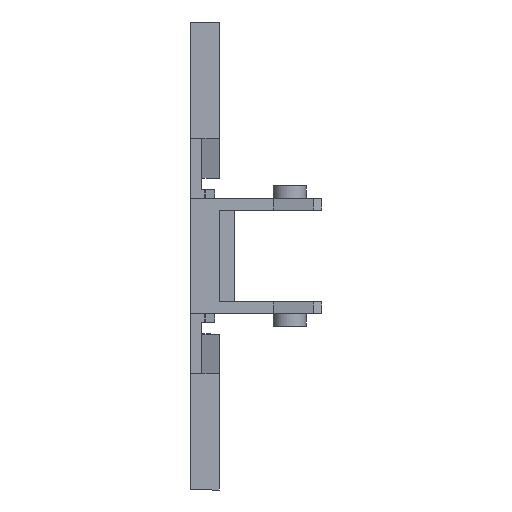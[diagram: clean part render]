
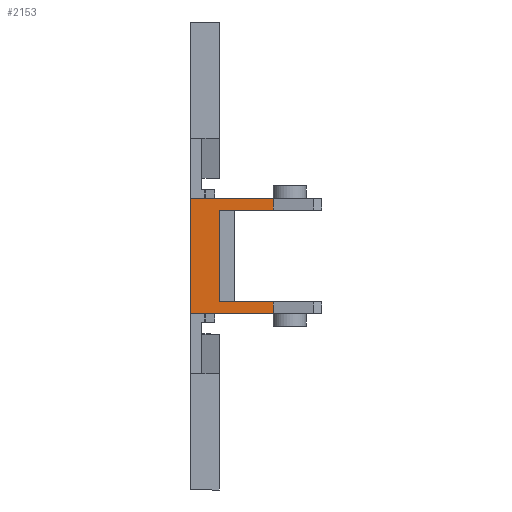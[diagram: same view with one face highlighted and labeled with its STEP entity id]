
A CAD part, front view. The second image highlights one B-rep face of the part: STEP entity #2153.
In plain terms, the highlighted planar face has unit normal (0, -1, 0).
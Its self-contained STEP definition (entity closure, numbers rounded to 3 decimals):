
#13 = CARTESIAN_POINT ( 'NONE',  ( 5.523, -25.55, 67.733 ) ) ;
#51 = CARTESIAN_POINT ( 'NONE',  ( 5.523, -25.55, 5.9 ) ) ;
#119 = CARTESIAN_POINT ( 'NONE',  ( 0., -25.55, -4.7 ) ) ;
#143 = CARTESIAN_POINT ( 'NONE',  ( 0., -25.55, 4.7 ) ) ;
#168 = CARTESIAN_POINT ( 'NONE',  ( -1.5, -25.55, -5.9 ) ) ;
#184 = VECTOR ( 'NONE', #2715, 1000. ) ;
#257 = VERTEX_POINT ( 'NONE', #713 ) ;
#270 = DIRECTION ( 'NONE',  ( 0., 0., -1. ) ) ;
#295 = EDGE_CURVE ( 'NONE', #580, #1293, #2241, .T. ) ;
#442 = DIRECTION ( 'NONE',  ( 1., 0., 0. ) ) ;
#449 = DIRECTION ( 'NONE',  ( 0., -1., 0. ) ) ;
#578 = VERTEX_POINT ( 'NONE', #2043 ) ;
#580 = VERTEX_POINT ( 'NONE', #143 ) ;
#705 = LINE ( 'NONE', #898, #2141 ) ;
#713 = CARTESIAN_POINT ( 'NONE',  ( 5.523, -25.55, -5.9 ) ) ;
#795 = EDGE_CURVE ( 'NONE', #578, #257, #1104, .T. ) ;
#898 = CARTESIAN_POINT ( 'NONE',  ( -3., -25.55, 15.37 ) ) ;
#927 = EDGE_CURVE ( 'NONE', #580, #1956, #2053, .T. ) ;
#1018 = LINE ( 'NONE', #1885, #3013 ) ;
#1032 = DIRECTION ( 'NONE',  ( 1., 0., 0. ) ) ;
#1063 = CARTESIAN_POINT ( 'NONE',  ( -3., -25.55, 5.9 ) ) ;
#1086 = CARTESIAN_POINT ( 'NONE',  ( 0., -25.55, -5.9 ) ) ;
#1104 = LINE ( 'NONE', #168, #2365 ) ;
#1114 = ORIENTED_EDGE ( 'NONE', *, *, #795, .T. ) ;
#1142 = VECTOR ( 'NONE', #1224, 1000. ) ;
#1158 = ORIENTED_EDGE ( 'NONE', *, *, #2493, .T. ) ;
#1224 = DIRECTION ( 'NONE',  ( 0., 0., -1. ) ) ;
#1269 = PLANE ( 'NONE',  #3051 ) ;
#1293 = VERTEX_POINT ( 'NONE', #2993 ) ;
#1296 = VERTEX_POINT ( 'NONE', #1063 ) ;
#1311 = EDGE_CURVE ( 'NONE', #1956, #3365, #2967, .T. ) ;
#1321 = EDGE_CURVE ( 'NONE', #3365, #257, #1018, .T. ) ;
#1571 = CARTESIAN_POINT ( 'NONE',  ( 10.5, -25.55, -4.7 ) ) ;
#1613 = VECTOR ( 'NONE', #2308, 1000. ) ;
#1725 = ORIENTED_EDGE ( 'NONE', *, *, #295, .T. ) ;
#1824 = ORIENTED_EDGE ( 'NONE', *, *, #2250, .T. ) ;
#1885 = CARTESIAN_POINT ( 'NONE',  ( 5.523, -25.55, 67.733 ) ) ;
#1956 = VERTEX_POINT ( 'NONE', #119 ) ;
#1996 = DIRECTION ( 'NONE',  ( 0., 0., -1. ) ) ;
#2043 = CARTESIAN_POINT ( 'NONE',  ( -3., -25.55, -5.9 ) ) ;
#2053 = LINE ( 'NONE', #1086, #1142 ) ;
#2094 = LINE ( 'NONE', #2461, #184 ) ;
#2141 = VECTOR ( 'NONE', #1996, 1000. ) ;
#2148 = VECTOR ( 'NONE', #2407, 1000. ) ;
#2153 = ADVANCED_FACE ( 'NONE', ( #2268 ), #1269, .T. ) ;
#2241 = LINE ( 'NONE', #2693, #2797 ) ;
#2250 = EDGE_CURVE ( 'NONE', #2285, #1296, #2094, .T. ) ;
#2268 = FACE_OUTER_BOUND ( 'NONE', #3022, .T. ) ;
#2270 = EDGE_CURVE ( 'NONE', #2285, #1293, #3380, .T. ) ;
#2285 = VERTEX_POINT ( 'NONE', #51 ) ;
#2308 = DIRECTION ( 'NONE',  ( 0., 0., -1. ) ) ;
#2337 = ORIENTED_EDGE ( 'NONE', *, *, #927, .F. ) ;
#2365 = VECTOR ( 'NONE', #1032, 1000. ) ;
#2407 = DIRECTION ( 'NONE',  ( 1., 0., 0. ) ) ;
#2461 = CARTESIAN_POINT ( 'NONE',  ( 10.5, -25.55, 5.9 ) ) ;
#2493 = EDGE_CURVE ( 'NONE', #1296, #578, #705, .T. ) ;
#2628 = ORIENTED_EDGE ( 'NONE', *, *, #1321, .F. ) ;
#2693 = CARTESIAN_POINT ( 'NONE',  ( 10.5, -25.55, 4.7 ) ) ;
#2715 = DIRECTION ( 'NONE',  ( -1., 0., 0. ) ) ;
#2797 = VECTOR ( 'NONE', #442, 1000. ) ;
#2842 = ORIENTED_EDGE ( 'NONE', *, *, #2270, .F. ) ;
#2863 = CARTESIAN_POINT ( 'NONE',  ( 5.523, -25.55, -4.7 ) ) ;
#2967 = LINE ( 'NONE', #1571, #2148 ) ;
#2993 = CARTESIAN_POINT ( 'NONE',  ( 5.523, -25.55, 4.7 ) ) ;
#3013 = VECTOR ( 'NONE', #270, 1000. ) ;
#3022 = EDGE_LOOP ( 'NONE', ( #2337, #1725, #2842, #1824, #1158, #1114, #2628, #3243 ) ) ;
#3051 = AXIS2_PLACEMENT_3D ( 'NONE', #3199, #449, #3511 ) ;
#3199 = CARTESIAN_POINT ( 'NONE',  ( 10.5, -25.55, -5.9 ) ) ;
#3243 = ORIENTED_EDGE ( 'NONE', *, *, #1311, .F. ) ;
#3365 = VERTEX_POINT ( 'NONE', #2863 ) ;
#3380 = LINE ( 'NONE', #13, #1613 ) ;
#3511 = DIRECTION ( 'NONE',  ( -1., 0., 0. ) ) ;
